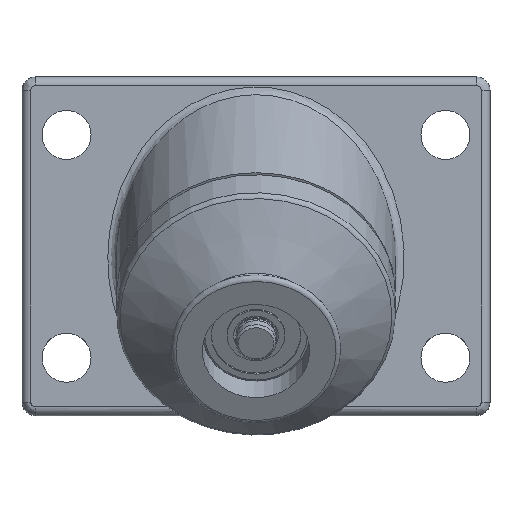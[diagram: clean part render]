
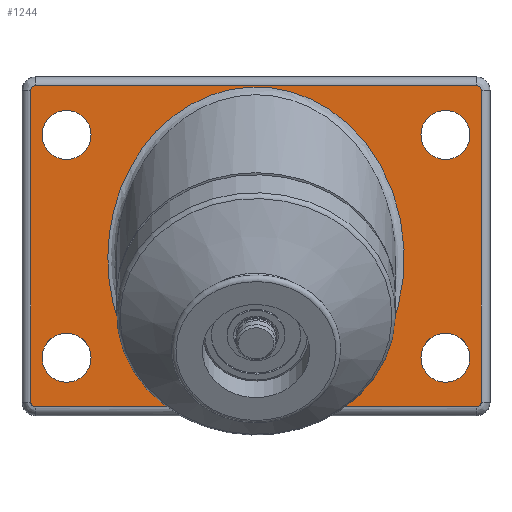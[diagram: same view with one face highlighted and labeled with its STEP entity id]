
A CAD part, top view. The second image highlights one B-rep face of the part: STEP entity #1244.
In plain terms, the highlighted planar face has unit normal (0, 0, 1).
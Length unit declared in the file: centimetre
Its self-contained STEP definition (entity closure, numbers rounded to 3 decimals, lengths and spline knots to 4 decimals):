
#18=LINE('',#2363,#40);
#19=LINE('',#2367,#41);
#20=LINE('',#2371,#42);
#21=LINE('',#2375,#43);
#22=LINE('',#2378,#44);
#40=VECTOR('',#1685,3.303);
#41=VECTOR('',#1688,7.);
#42=VECTOR('',#1691,9.9);
#43=VECTOR('',#1694,7.);
#44=VECTOR('',#1697,3.303);
#63=ELLIPSE('',#1384,3.8394,3.325);
#64=ELLIPSE('',#1385,3.8394,3.325);
#65=ELLIPSE('',#1388,3.8394,3.325);
#143=PLANE('',#1391);
#204=FACE_BOUND('',#427,.T.);
#205=FACE_BOUND('',#428,.T.);
#206=FACE_BOUND('',#429,.T.);
#207=FACE_BOUND('',#430,.T.);
#286=FACE_OUTER_BOUND('',#426,.T.);
#426=EDGE_LOOP('',(#946,#947,#948,#949,#950,#951,#952,#953,#954,#955,#956,
#957));
#427=EDGE_LOOP('',(#958));
#428=EDGE_LOOP('',(#959));
#429=EDGE_LOOP('',(#960));
#430=EDGE_LOOP('',(#961));
#549=CIRCLE('',#1392,0.1);
#550=CIRCLE('',#1393,0.1);
#551=CIRCLE('',#1394,0.1);
#552=CIRCLE('',#1395,0.1);
#553=CIRCLE('',#1396,0.55);
#554=CIRCLE('',#1397,0.55);
#555=CIRCLE('',#1398,0.55);
#556=CIRCLE('',#1399,0.55);
#640=VERTEX_POINT('',#2156);
#643=VERTEX_POINT('',#2161);
#645=VERTEX_POINT('',#2193);
#647=VERTEX_POINT('',#2225);
#650=VERTEX_POINT('',#2362);
#651=VERTEX_POINT('',#2364);
#652=VERTEX_POINT('',#2366);
#653=VERTEX_POINT('',#2368);
#654=VERTEX_POINT('',#2370);
#655=VERTEX_POINT('',#2372);
#656=VERTEX_POINT('',#2374);
#657=VERTEX_POINT('',#2376);
#658=VERTEX_POINT('',#2379);
#659=VERTEX_POINT('',#2381);
#660=VERTEX_POINT('',#2383);
#661=VERTEX_POINT('',#2385);
#751=EDGE_CURVE('',#643,#640,#63,.T.);
#753=EDGE_CURVE('',#640,#645,#64,.T.);
#757=EDGE_CURVE('',#647,#643,#65,.T.);
#763=EDGE_CURVE('',#650,#647,#18,.T.);
#764=EDGE_CURVE('',#651,#650,#549,.T.);
#765=EDGE_CURVE('',#652,#651,#19,.T.);
#766=EDGE_CURVE('',#653,#652,#550,.T.);
#767=EDGE_CURVE('',#654,#653,#20,.T.);
#768=EDGE_CURVE('',#655,#654,#551,.T.);
#769=EDGE_CURVE('',#656,#655,#21,.T.);
#770=EDGE_CURVE('',#657,#656,#552,.T.);
#771=EDGE_CURVE('',#645,#657,#22,.T.);
#772=EDGE_CURVE('',#658,#658,#553,.T.);
#773=EDGE_CURVE('',#659,#659,#554,.T.);
#774=EDGE_CURVE('',#660,#660,#555,.T.);
#775=EDGE_CURVE('',#661,#661,#556,.T.);
#946=ORIENTED_EDGE('',*,*,#753,.F.);
#947=ORIENTED_EDGE('',*,*,#751,.F.);
#948=ORIENTED_EDGE('',*,*,#757,.F.);
#949=ORIENTED_EDGE('',*,*,#763,.F.);
#950=ORIENTED_EDGE('',*,*,#764,.F.);
#951=ORIENTED_EDGE('',*,*,#765,.F.);
#952=ORIENTED_EDGE('',*,*,#766,.F.);
#953=ORIENTED_EDGE('',*,*,#767,.F.);
#954=ORIENTED_EDGE('',*,*,#768,.F.);
#955=ORIENTED_EDGE('',*,*,#769,.F.);
#956=ORIENTED_EDGE('',*,*,#770,.F.);
#957=ORIENTED_EDGE('',*,*,#771,.F.);
#958=ORIENTED_EDGE('',*,*,#772,.T.);
#959=ORIENTED_EDGE('',*,*,#773,.T.);
#960=ORIENTED_EDGE('',*,*,#774,.T.);
#961=ORIENTED_EDGE('',*,*,#775,.T.);
#1244=ADVANCED_FACE('',(#286,#204,#205,#206,#207),#143,.T.);
#1384=AXIS2_PLACEMENT_3D('',#2163,#1669,#1670);
#1385=AXIS2_PLACEMENT_3D('',#2194,#1671,#1672);
#1388=AXIS2_PLACEMENT_3D('',#2227,#1677,#1678);
#1391=AXIS2_PLACEMENT_3D('',#2361,#1683,#1684);
#1392=AXIS2_PLACEMENT_3D('',#2365,#1686,#1687);
#1393=AXIS2_PLACEMENT_3D('',#2369,#1689,#1690);
#1394=AXIS2_PLACEMENT_3D('',#2373,#1692,#1693);
#1395=AXIS2_PLACEMENT_3D('',#2377,#1695,#1696);
#1396=AXIS2_PLACEMENT_3D('',#2380,#1698,#1699);
#1397=AXIS2_PLACEMENT_3D('',#2382,#1700,#1701);
#1398=AXIS2_PLACEMENT_3D('',#2384,#1702,#1703);
#1399=AXIS2_PLACEMENT_3D('',#2386,#1704,#1705);
#1669=DIRECTION('center_axis',(0.,0.,
1.));
#1670=DIRECTION('ref_axis',(0.,1.,0.));
#1671=DIRECTION('center_axis',(0.,0.,
1.));
#1672=DIRECTION('ref_axis',(0.,-1.,0.));
#1677=DIRECTION('center_axis',(0.,0.,
1.));
#1678=DIRECTION('ref_axis',(0.,-1.,0.));
#1683=DIRECTION('center_axis',(0.,0.,
1.));
#1684=DIRECTION('ref_axis',(-1.,0.,0.));
#1685=DIRECTION('',(-1.,0.,0.));
#1686=DIRECTION('center_axis',(0.,0.,
-1.));
#1687=DIRECTION('ref_axis',(0.707,-0.707,0.));
#1688=DIRECTION('',(0.,-1.,0.));
#1689=DIRECTION('center_axis',(0.,0.,
-1.));
#1690=DIRECTION('ref_axis',(0.707,0.707,0.));
#1691=DIRECTION('',(1.,0.,0.));
#1692=DIRECTION('center_axis',(0.,0.,
-1.));
#1693=DIRECTION('ref_axis',(-0.707,0.707,0.));
#1694=DIRECTION('',(0.,1.,0.));
#1695=DIRECTION('center_axis',(0.,0.,
-1.));
#1696=DIRECTION('ref_axis',(-0.707,-0.707,0.));
#1697=DIRECTION('',(-1.,0.,0.));
#1698=DIRECTION('center_axis',(0.,0.,
-1.));
#1699=DIRECTION('ref_axis',(1.,0.,0.));
#1700=DIRECTION('center_axis',(0.,0.,
-1.));
#1701=DIRECTION('ref_axis',(1.,0.,0.));
#1702=DIRECTION('center_axis',(0.,0.,
-1.));
#1703=DIRECTION('ref_axis',(1.,0.,0.));
#1704=DIRECTION('center_axis',(0.,0.,
-1.));
#1705=DIRECTION('ref_axis',(1.,0.,0.));
#2156=CARTESIAN_POINT('',(-1.8669,-2.0853,1.));
#2161=CARTESIAN_POINT('',(1.8669,-2.0853,1.));
#2163=CARTESIAN_POINT('Origin',(0.,1.0918,
1.));
#2193=CARTESIAN_POINT('',(-1.647,-2.2435,1.));
#2194=CARTESIAN_POINT('Origin',(0.,1.0918,
1.));
#2225=CARTESIAN_POINT('',(1.647,-2.2435,1.));
#2227=CARTESIAN_POINT('Origin',(0.,1.0918,
1.));
#2361=CARTESIAN_POINT('Origin',(0.,1.3565,1.));
#2362=CARTESIAN_POINT('',(4.95,-2.2435,1.));
#2363=CARTESIAN_POINT('',(-2.625,-2.2435,1.));
#2364=CARTESIAN_POINT('',(5.05,-2.1435,1.));
#2365=CARTESIAN_POINT('Origin',(4.95,-2.1435,1.));
#2366=CARTESIAN_POINT('',(5.05,4.8565,1.));
#2367=CARTESIAN_POINT('',(5.05,-0.5435,1.));
#2368=CARTESIAN_POINT('',(4.95,4.9565,1.));
#2369=CARTESIAN_POINT('Origin',(4.95,4.8565,1.));
#2370=CARTESIAN_POINT('',(-4.95,4.9565,1.));
#2371=CARTESIAN_POINT('',(2.625,4.9565,1.));
#2372=CARTESIAN_POINT('',(-5.05,4.8565,1.));
#2373=CARTESIAN_POINT('Origin',(-4.95,4.8565,1.));
#2374=CARTESIAN_POINT('',(-5.05,-2.1435,1.));
#2375=CARTESIAN_POINT('',(-5.05,3.2565,1.));
#2376=CARTESIAN_POINT('',(-4.95,-2.2435,1.));
#2377=CARTESIAN_POINT('Origin',(-4.95,-2.1435,1.));
#2378=CARTESIAN_POINT('',(-2.625,-2.2435,1.));
#2379=CARTESIAN_POINT('',(4.8,-1.1435,1.));
#2380=CARTESIAN_POINT('Origin',(4.25,-1.1435,1.));
#2381=CARTESIAN_POINT('',(-3.7,3.8565,1.));
#2382=CARTESIAN_POINT('Origin',(-4.25,3.8565,1.));
#2383=CARTESIAN_POINT('',(4.8,3.8565,1.));
#2384=CARTESIAN_POINT('Origin',(4.25,3.8565,1.));
#2385=CARTESIAN_POINT('',(-3.7,-1.1435,1.));
#2386=CARTESIAN_POINT('Origin',(-4.25,-1.1435,1.));
